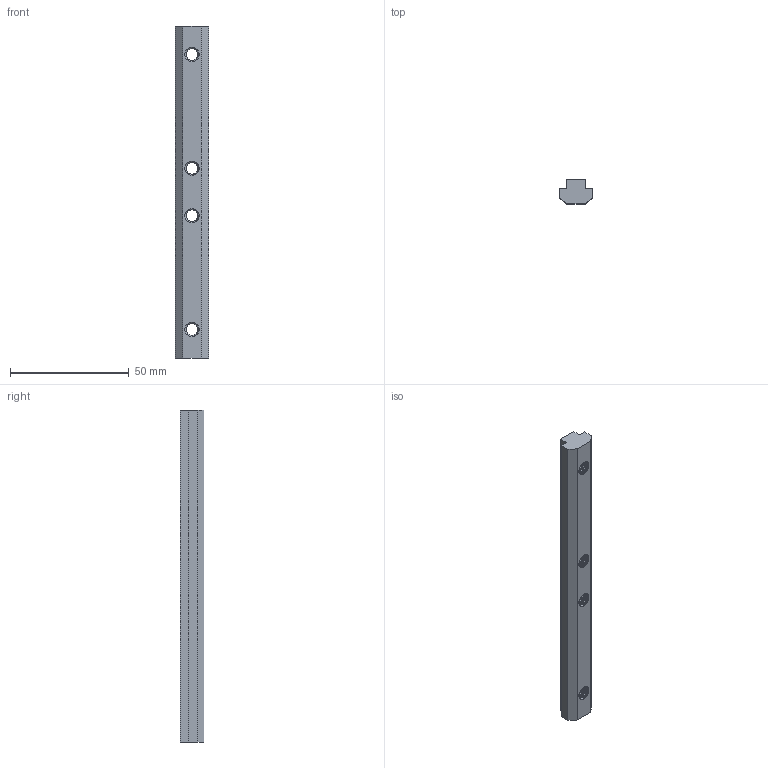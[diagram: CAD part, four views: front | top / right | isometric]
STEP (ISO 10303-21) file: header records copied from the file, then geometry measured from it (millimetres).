
FILE_DESCRIPTION (( 'STEP AP203' ), '1' );
FILE_NAME ('88-CG-ISC4040-8.STEP', '2015-07-09T08:32:17', ( '' ), ( '' ), 'SwSTEP 2.0', 'SolidWorks 2013', '' );
FILE_SCHEMA (( 'CONFIG_CONTROL_DESIGN' ));
Length unit declared in the file: millimetre
Products named in the file (1): 88-CG-ISC4040-8
Bounding box: 14 x 10 x 140 mm (x, y, z)
Volume: 14623.1 mm3; surface area: 7335.7 mm2
Topology: 1 solids, 1 shells, 124 faces, 334 edges, 212 vertices
Faces by surface type: cylinder 80, cone 24, plane 12, bspline 8
Entity records: 8599 total; most frequent: CARTESIAN_POINT 5931, ORIENTED_EDGE 668, DIRECTION 420, EDGE_CURVE 334, VERTEX_POINT 212, AXIS2_PLACEMENT_3D 149, EDGE_LOOP 132, ADVANCED_FACE 124
